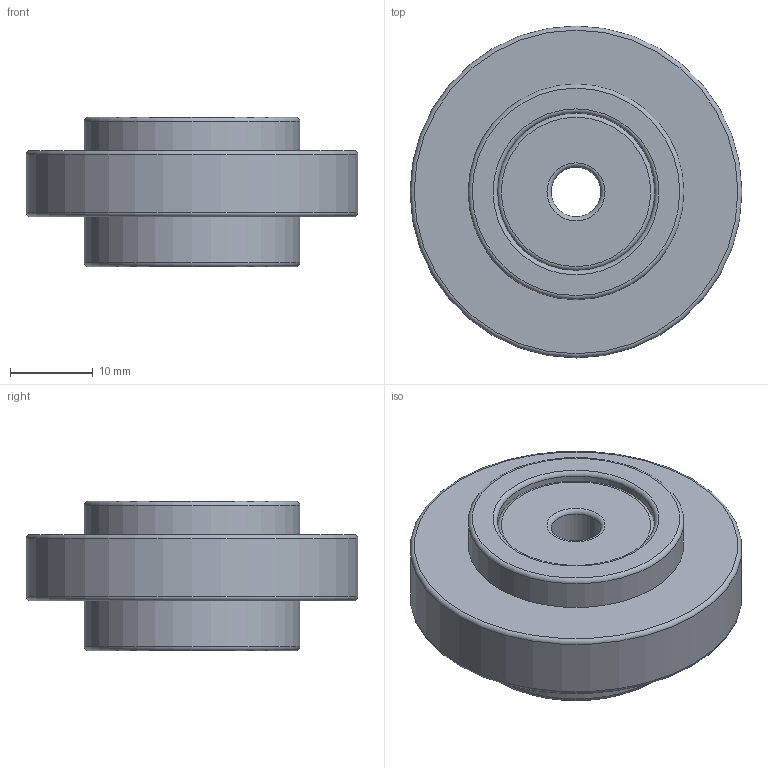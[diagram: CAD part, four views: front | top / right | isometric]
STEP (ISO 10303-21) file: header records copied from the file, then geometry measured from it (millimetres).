
FILE_DESCRIPTION((''),'2;1');
FILE_NAME('E:\catalogue and flyer\Profile catalogue 2015\Accessories ACC info\Accessories ACC step file 31Mar16\ACC-Castor-8.stp','2016-04-07T11:45:45',('h029'),(''),'Autodesk Inventor 11','Autodesk Inventor 11','');
FILE_SCHEMA(('AUTOMOTIVE_DESIGN { 1 0 10303 214 1 1 1 1 }'));
Length unit declared in the file: millimetre
Products named in the file (4): Castor-8; Castor-8(Alu Bushing); Castor-8(Bearing 626ZZ)
Assembly tree (4 placements, depth 2):
  Castor-8
    Castor-8
    Castor-8(Alu Bushing)
    Castor-8(Bearing 626ZZ)  x2
Bounding box: 40 x 40 x 18 mm (x, y, z)
Volume: 14253.7 mm3; surface area: 7278.5 mm2
Topology: 4 solids, 4 shells, 38 faces, 65 edges, 39 vertices
Faces by surface type: torus 14, plane 12, cylinder 12
Full cylindrical faces by diameter (mm): 6 x2, 6.5 x1, 12.7 x1, 13 x1, 19 x4, 26 x2, 40 x1
Entity records: 734 total; most frequent: DIRECTION 136, CARTESIAN_POINT 98, AXIS2_PLACEMENT_3D 68, ORIENTED_EDGE 60, EDGE_LOOP 60, VERTEX_POINT 30, CIRCLE 30, EDGE_CURVE 30
